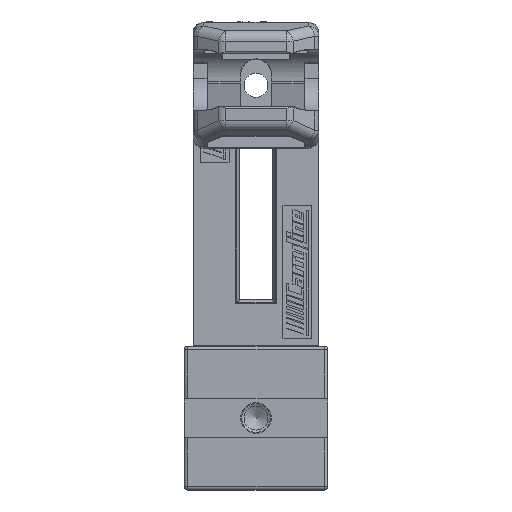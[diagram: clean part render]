
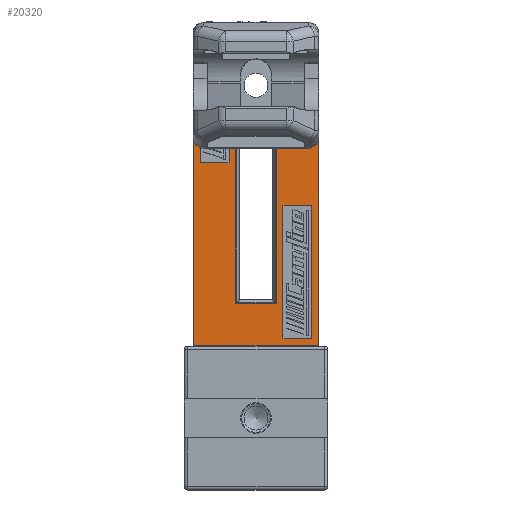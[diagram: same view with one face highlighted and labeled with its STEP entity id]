
A CAD part, front view. The second image highlights one B-rep face of the part: STEP entity #20320.
In plain terms, the highlighted planar face has unit normal (0, -1, 0) as drawn and (-1, 0, 0) by its records, which use the part's own axes.
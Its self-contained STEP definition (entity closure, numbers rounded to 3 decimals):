
#115=FACE_BOUND('',#7130,.T.);
#116=FACE_BOUND('',#7131,.T.);
#117=FACE_BOUND('',#7132,.T.);
#550=PLANE('',#22017);
#1909=LINE('',#33399,#3872);
#1911=LINE('',#33403,#3874);
#1913=LINE('',#33407,#3876);
#1915=LINE('',#33410,#3878);
#1940=LINE('',#33464,#3903);
#1941=LINE('',#33468,#3904);
#1942=LINE('',#33472,#3905);
#1943=LINE('',#33473,#3906);
#1944=LINE('',#33476,#3907);
#1945=LINE('',#33478,#3908);
#1946=LINE('',#33480,#3909);
#1947=LINE('',#33481,#3910);
#1948=LINE('',#33484,#3911);
#1949=LINE('',#33486,#3912);
#1950=LINE('',#33488,#3913);
#1951=LINE('',#33489,#3914);
#3872=VECTOR('',#25852,10.);
#3874=VECTOR('',#25856,10.);
#3876=VECTOR('',#25860,10.);
#3878=VECTOR('',#25864,10.);
#3903=VECTOR('',#25911,10.);
#3904=VECTOR('',#25914,10.);
#3905=VECTOR('',#25917,10.);
#3906=VECTOR('',#25918,10.);
#3907=VECTOR('',#25919,10.);
#3908=VECTOR('',#25920,10.);
#3909=VECTOR('',#25921,10.);
#3910=VECTOR('',#25922,10.);
#3911=VECTOR('',#25923,10.);
#3912=VECTOR('',#25924,10.);
#3913=VECTOR('',#25925,10.);
#3914=VECTOR('',#25926,10.);
#5894=FACE_OUTER_BOUND('',#7129,.T.);
#7129=EDGE_LOOP('',(#16055,#16056,#16057,#16058,#16059,#16060));
#7130=EDGE_LOOP('',(#16061,#16062,#16063,#16064));
#7131=EDGE_LOOP('',(#16065,#16066,#16067,#16068));
#7132=EDGE_LOOP('',(#16069,#16070,#16071,#16072));
#8176=CIRCLE('',#22018,2.8);
#8177=CIRCLE('',#22019,2.8);
#9466=VERTEX_POINT('',#33396);
#9467=VERTEX_POINT('',#33398);
#9468=VERTEX_POINT('',#33402);
#9469=VERTEX_POINT('',#33406);
#9486=VERTEX_POINT('',#33462);
#9487=VERTEX_POINT('',#33463);
#9488=VERTEX_POINT('',#33465);
#9489=VERTEX_POINT('',#33467);
#9490=VERTEX_POINT('',#33469);
#9491=VERTEX_POINT('',#33471);
#9492=VERTEX_POINT('',#33474);
#9493=VERTEX_POINT('',#33475);
#9494=VERTEX_POINT('',#33477);
#9495=VERTEX_POINT('',#33479);
#9496=VERTEX_POINT('',#33482);
#9497=VERTEX_POINT('',#33483);
#9498=VERTEX_POINT('',#33485);
#9499=VERTEX_POINT('',#33487);
#11814=EDGE_CURVE('',#9467,#9466,#1909,.T.);
#11816=EDGE_CURVE('',#9468,#9467,#1911,.T.);
#11818=EDGE_CURVE('',#9469,#9468,#1913,.T.);
#11820=EDGE_CURVE('',#9466,#9469,#1915,.T.);
#11845=EDGE_CURVE('',#9486,#9487,#1940,.T.);
#11846=EDGE_CURVE('',#9488,#9486,#8176,.T.);
#11847=EDGE_CURVE('',#9489,#9488,#1941,.T.);
#11848=EDGE_CURVE('',#9490,#9489,#8177,.T.);
#11849=EDGE_CURVE('',#9491,#9490,#1942,.T.);
#11850=EDGE_CURVE('',#9487,#9491,#1943,.T.);
#11851=EDGE_CURVE('',#9492,#9493,#1944,.T.);
#11852=EDGE_CURVE('',#9493,#9494,#1945,.T.);
#11853=EDGE_CURVE('',#9494,#9495,#1946,.T.);
#11854=EDGE_CURVE('',#9495,#9492,#1947,.T.);
#11855=EDGE_CURVE('',#9496,#9497,#1948,.T.);
#11856=EDGE_CURVE('',#9498,#9496,#1949,.T.);
#11857=EDGE_CURVE('',#9499,#9498,#1950,.T.);
#11858=EDGE_CURVE('',#9497,#9499,#1951,.T.);
#16055=ORIENTED_EDGE('',*,*,#11845,.F.);
#16056=ORIENTED_EDGE('',*,*,#11846,.F.);
#16057=ORIENTED_EDGE('',*,*,#11847,.F.);
#16058=ORIENTED_EDGE('',*,*,#11848,.F.);
#16059=ORIENTED_EDGE('',*,*,#11849,.F.);
#16060=ORIENTED_EDGE('',*,*,#11850,.F.);
#16061=ORIENTED_EDGE('',*,*,#11851,.T.);
#16062=ORIENTED_EDGE('',*,*,#11852,.T.);
#16063=ORIENTED_EDGE('',*,*,#11853,.T.);
#16064=ORIENTED_EDGE('',*,*,#11854,.T.);
#16065=ORIENTED_EDGE('',*,*,#11855,.F.);
#16066=ORIENTED_EDGE('',*,*,#11856,.F.);
#16067=ORIENTED_EDGE('',*,*,#11857,.F.);
#16068=ORIENTED_EDGE('',*,*,#11858,.F.);
#16069=ORIENTED_EDGE('',*,*,#11814,.T.);
#16070=ORIENTED_EDGE('',*,*,#11820,.T.);
#16071=ORIENTED_EDGE('',*,*,#11818,.T.);
#16072=ORIENTED_EDGE('',*,*,#11816,.T.);
#20320=ADVANCED_FACE('',(#5894,#115,#116,#117),#550,.T.);
#22017=AXIS2_PLACEMENT_3D('',#33461,#25909,#25910);
#22018=AXIS2_PLACEMENT_3D('',#33466,#25912,#25913);
#22019=AXIS2_PLACEMENT_3D('',#33470,#25915,#25916);
#25852=DIRECTION('',(0.,-1.,0.));
#25856=DIRECTION('',(0.,0.,1.));
#25860=DIRECTION('',(0.,1.,0.));
#25864=DIRECTION('',(0.,0.,-1.));
#25909=DIRECTION('center_axis',(-1.,0.,0.));
#25910=DIRECTION('ref_axis',(0.,0.,1.));
#25911=DIRECTION('',(0.,0.,-1.));
#25912=DIRECTION('center_axis',(1.,0.,0.));
#25913=DIRECTION('ref_axis',(0.,-0.707,0.707));
#25914=DIRECTION('',(0.,-1.,0.));
#25915=DIRECTION('center_axis',(1.,0.,0.));
#25916=DIRECTION('ref_axis',(0.,0.707,0.707));
#25917=DIRECTION('',(0.,0.,1.));
#25918=DIRECTION('',(0.,1.,0.));
#25919=DIRECTION('',(0.,-1.,0.));
#25920=DIRECTION('',(0.,0.,-1.));
#25921=DIRECTION('',(0.,1.,0.));
#25922=DIRECTION('',(0.,0.,1.));
#25923=DIRECTION('',(0.,1.,0.));
#25924=DIRECTION('',(0.,0.,1.));
#25925=DIRECTION('',(0.,-1.,0.));
#25926=DIRECTION('',(0.,0.,-1.));
#33396=CARTESIAN_POINT('',(0.,25.,88.));
#33398=CARTESIAN_POINT('',(0.,33.,88.));
#33399=CARTESIAN_POINT('',(0.,12.5,88.));
#33402=CARTESIAN_POINT('',(0.,33.,51.));
#33403=CARTESIAN_POINT('',(0.,33.,44.));
#33406=CARTESIAN_POINT('',(0.,25.,51.));
#33407=CARTESIAN_POINT('',(0.,16.5,51.));
#33410=CARTESIAN_POINT('',(0.,25.,25.5));
#33461=CARTESIAN_POINT('Origin',(0.,0.,0.));
#33462=CARTESIAN_POINT('',(0.,0.2,87.));
#33463=CARTESIAN_POINT('',(0.,0.2,0.2));
#33464=CARTESIAN_POINT('',(0.,0.2,0.));
#33465=CARTESIAN_POINT('',(0.,3.,89.8));
#33466=CARTESIAN_POINT('Origin',(0.,3.,87.));
#33467=CARTESIAN_POINT('',(0.,32.,89.8));
#33468=CARTESIAN_POINT('',(0.,8.75,89.8));
#33469=CARTESIAN_POINT('',(0.,34.8,87.));
#33470=CARTESIAN_POINT('Origin',(0.,32.,87.));
#33471=CARTESIAN_POINT('',(0.,34.8,0.2));
#33472=CARTESIAN_POINT('',(0.,34.8,0.));
#33473=CARTESIAN_POINT('',(0.,8.75,0.2));
#33474=CARTESIAN_POINT('',(0.,10.,39.));
#33475=CARTESIAN_POINT('',(0.,2.,39.));
#33476=CARTESIAN_POINT('',(0.,1.,39.));
#33477=CARTESIAN_POINT('',(0.,2.,2.));
#33478=CARTESIAN_POINT('',(0.,2.,1.));
#33479=CARTESIAN_POINT('',(0.,10.,2.));
#33480=CARTESIAN_POINT('',(0.,5.,2.));
#33481=CARTESIAN_POINT('',(0.,10.,19.5));
#33482=CARTESIAN_POINT('',(0.,11.8,78.2));
#33483=CARTESIAN_POINT('',(0.,23.2,78.2));
#33484=CARTESIAN_POINT('',(0.,6.,78.2));
#33485=CARTESIAN_POINT('',(0.,11.8,11.8));
#33486=CARTESIAN_POINT('',(0.,11.8,6.));
#33487=CARTESIAN_POINT('',(0.,23.2,11.8));
#33488=CARTESIAN_POINT('',(0.,11.5,11.8));
#33489=CARTESIAN_POINT('',(0.,23.2,39.));
